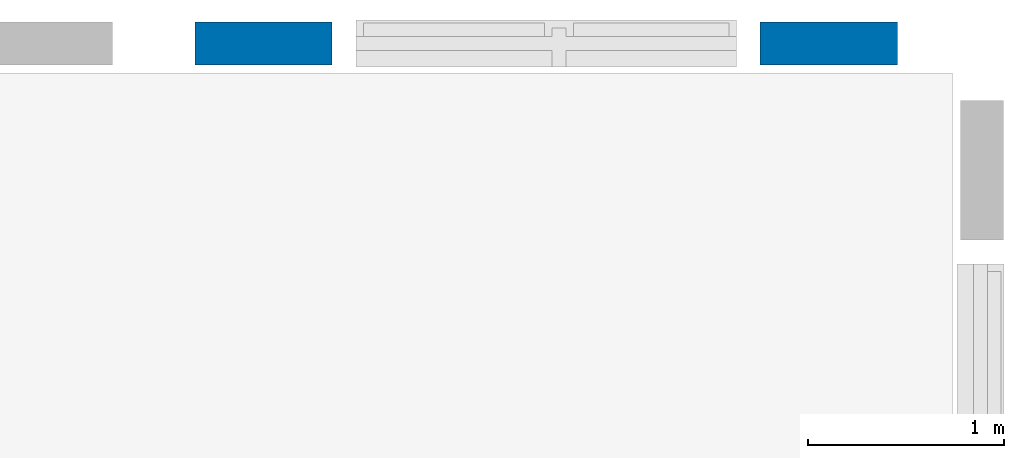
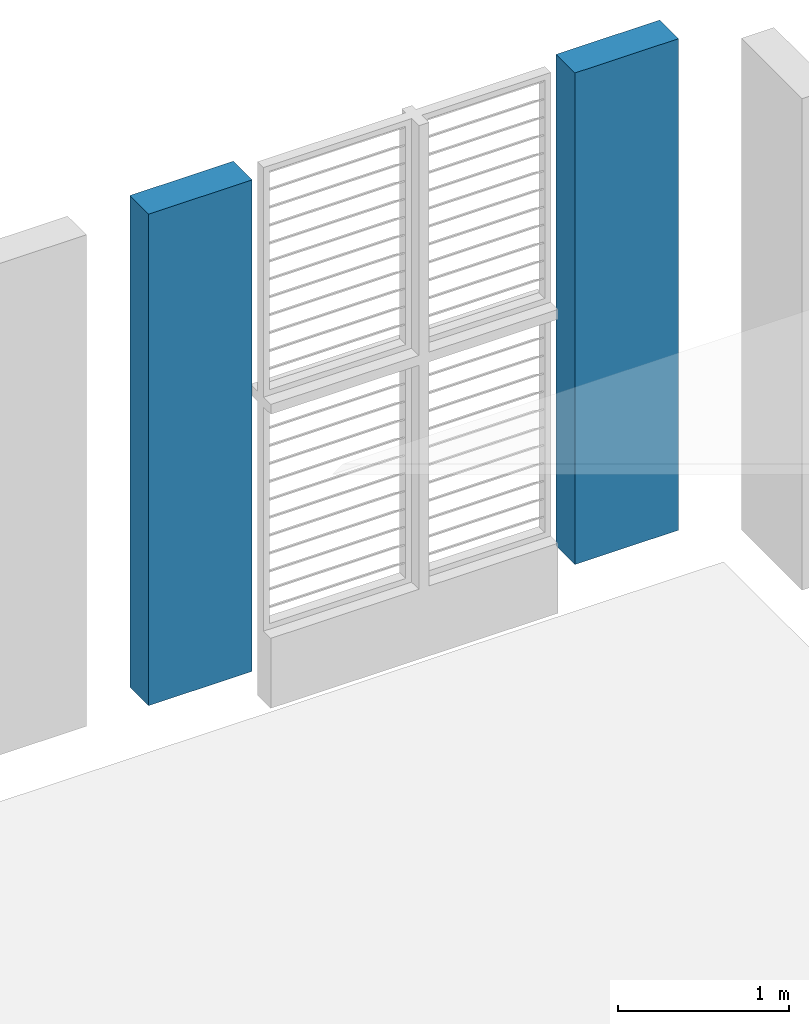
# One storey, part 8 of 8: 2 walls.
"""IFC2X3 building model written with IfcOpenShell, lengths in metres."""

import ifcopenshell
import ifcopenshell.guid

model = None  # the IFC model being written
_history = None  # IfcOwnerHistory: only IFC2X3 demands one
_inside = {}  # id of a spatial element -> (the spatial element, [elements in it])
_under = {}  # id of a project, library or spatial element -> (it, [spatial elements below it])
_declared = {}  # id of a project -> (the project, [libraries it declares])
_typed = {}  # id of a type object -> (the type object, [elements of that type])
_made_of = {}  # id of a material, layer set ... -> (it, [elements and type objects made of it])


def new_model(schema):
    """Start an empty IFC model of exactly this schema.

    Asked for "IFC4X3", IfcOpenShell would pick the latest addendum, in which some entities
    have other attributes; the version numbers below select the first issue.
    IFC2X3 requires an IfcOwnerHistory on every rooted entity: one is made here for all.
    """
    global model, _history
    if schema == "IFC4X3":
        model = ifcopenshell.file(schema_version=(4, 3, 0, 0))
    else:
        model = ifcopenshell.file(schema=schema)
    _inside.clear()
    _under.clear()
    _declared.clear()
    _typed.clear()
    _made_of.clear()
    _history = None
    if model.schema == "IFC2X3":
        org = make("IfcOrganization", Name="unknown")
        user = make(
            "IfcPersonAndOrganization",
            ThePerson=make("IfcPerson", FamilyName="unknown"),
            TheOrganization=org,
        )
        app = make(
            "IfcApplication",
            ApplicationDeveloper=org,
            Version="unknown",
            ApplicationFullName="unknown",
            ApplicationIdentifier="unknown",
        )
        _history = make(
            "IfcOwnerHistory",
            OwningUser=user,
            OwningApplication=app,
            ChangeAction="ADDED",
            CreationDate=0,
        )
    return model


def make(cls, **values):
    """One entity of the class cls with the attributes given. An attribute that is None is left unset."""
    return model.create_entity(
        cls, **{name: value for name, value in values.items() if value is not None}
    )


def entity(cls, *values):
    """Any entity or typed value of the class cls, its attributes in the order of the schema. None: left unset."""
    e = model.create_entity(cls)
    for i, value in enumerate(values):
        if value is not None:
            e[i] = value
    return e


def rooted(cls, **values):
    """An entity with a GlobalId (a new one), such as an element, a storey or a relation."""
    return make(cls, GlobalId=ifcopenshell.guid.new(), OwnerHistory=_history, **values)


def si_unit(unit_type, name, prefix=None):
    """IfcSIUnit, for example si_unit("LENGTHUNIT", "METRE", prefix="MILLI")."""
    return make("IfcSIUnit", UnitType=unit_type, Prefix=prefix, Name=name)


def converted_unit(unit_type, name, factor, base, dimensions=None, offset=None):
    """IfcConversionBasedUnit, such as the inch: factor (a typed value) times the base unit."""
    return make(
        "IfcConversionBasedUnit"
        if offset is None
        else "IfcConversionBasedUnitWithOffset",
        ConversionOffset=offset,
        Dimensions=None
        if dimensions is None
        else entity("IfcDimensionalExponents", *dimensions),
        UnitType=unit_type,
        Name=name,
        ConversionFactor=make(
            "IfcMeasureWithUnit", ValueComponent=factor, UnitComponent=base
        ),
    )


def derived_unit(unit_type, elements):
    """IfcDerivedUnit: a product of units, each with its exponent."""
    return make(
        "IfcDerivedUnit",
        Elements=[
            make("IfcDerivedUnitElement", Unit=unit, Exponent=power)
            for unit, power in elements
        ],
        UnitType=unit_type,
    )


def assignment(units):
    """IfcUnitAssignment: the units of a project."""
    return None if units is None else make("IfcUnitAssignment", Units=units)


def point(xyz):
    """IfcCartesianPoint."""
    return None if xyz is None else make("IfcCartesianPoint", Coordinates=xyz)


def direction(xyz):
    """IfcDirection."""
    return None if xyz is None else make("IfcDirection", DirectionRatios=xyz)


def frame(location, z_axis=None, x_axis=None):
    """IfcAxis2Placement3D, a coordinate frame: its origin and axes. An axis left out is left unset."""
    return make(
        "IfcAxis2Placement3D",
        Location=point(location),
        Axis=direction(z_axis),
        RefDirection=direction(x_axis),
    )


def frame_2d(location, x_axis=None):
    """IfcAxis2Placement2D, a coordinate frame in the plane: its origin and x axis."""
    return make(
        "IfcAxis2Placement2D", Location=point(location), RefDirection=direction(x_axis)
    )


def origin():
    """The frame at (0, 0, 0) with its axes left unset."""
    return frame((0.0, 0.0, 0.0))


def place(relative_to, where):
    """IfcLocalPlacement: puts the frame where relative to a parent placement (None: the world)."""
    return make(
        "IfcLocalPlacement", PlacementRelTo=relative_to, RelativePlacement=where
    )


def context(
    kind, dimensions, precision=None, world=None, true_north=None, identifier=None
):
    """IfcGeometricRepresentationContext, for example the 3D "Model" context."""
    return make(
        "IfcGeometricRepresentationContext",
        ContextIdentifier=identifier,
        ContextType=kind,
        CoordinateSpaceDimension=dimensions,
        Precision=precision,
        WorldCoordinateSystem=world,
        TrueNorth=true_north,
    )


def subcontext(parent, identifier, kind, view, scale=None):
    """IfcGeometricRepresentationSubContext, for example "Body" below "Model"."""
    return make(
        "IfcGeometricRepresentationSubContext",
        ContextIdentifier=identifier,
        ContextType=kind,
        ParentContext=parent,
        TargetScale=scale,
        TargetView=view,
    )


def project(units=None, contexts=None):
    """IfcProject with its units and contexts."""
    return rooted(
        "IfcProject",
        Name="project",
        RepresentationContexts=contexts,
        UnitsInContext=assignment(units),
    )


def spatial(cls, under=None, at=None, **own):
    """A site, building, storey or space (cls), placed at a placement, below another one or the project."""
    s = rooted(cls, ObjectPlacement=at, **own)
    if under is not None:
        _under.setdefault(under.id(), (under, []))[1].append(s)
    return s


def profile(cls, at=None, kind="AREA", **sizes):
    """A parametric profile (cls). Its sizes go by their IFC names, for example OverallWidth=200.0."""
    return make(cls, ProfileType=kind, Position=at, **sizes)


def rectangle(**sizes):
    """IfcRectangleProfileDef."""
    return profile("IfcRectangleProfileDef", **sizes)


def extrude(swept, where, along, depth):
    """IfcExtrudedAreaSolid: the profile swept, set in the frame where, extruded along a direction by depth."""
    return make(
        "IfcExtrudedAreaSolid",
        SweptArea=swept,
        Position=where,
        ExtrudedDirection=direction(along),
        Depth=depth,
    )


def shape(context_of_items, identifier, shape_type, items):
    """IfcShapeRepresentation: the items that make up one representation, for example the "Body"."""
    return make(
        "IfcShapeRepresentation",
        ContextOfItems=context_of_items,
        RepresentationIdentifier=identifier,
        RepresentationType=shape_type,
        Items=items,
    )


def material(Name=None, Category=None):
    """IfcMaterial."""
    return make("IfcMaterial", Name=Name, Category=Category)


def layer(
    of_material, thickness, ventilated=None, Name=None, Category=None, Priority=None
):
    """IfcMaterialLayer: one layer of a wall or slab, of a material (None: an air gap)."""
    return make(
        "IfcMaterialLayer",
        Material=of_material,
        LayerThickness=thickness,
        IsVentilated=ventilated,
        Name=Name,
        Category=Category,
        Priority=Priority,
    )


def layer_set(layers, Name=None):
    """IfcMaterialLayerSet."""
    return make("IfcMaterialLayerSet", MaterialLayers=layers, LayerSetName=Name)


def layer_usage(for_layer_set, set_direction, sense, offset, extent=None):
    """IfcMaterialLayerSetUsage: how a layer set lies in its element."""
    return make(
        "IfcMaterialLayerSetUsage",
        ForLayerSet=for_layer_set,
        LayerSetDirection=set_direction,
        DirectionSense=sense,
        OffsetFromReferenceLine=offset,
        ReferenceExtent=extent,
    )


def made_of(thing, what):
    """Note that an element or type object is made of a material, layer set ...; save() writes the relation."""
    if what is not None:
        _made_of.setdefault(what.id(), (what, []))[1].append(thing)
    return thing


def type_object(cls, material=None, **own):
    """A type object (cls), such as IfcWallType, which elements share."""
    return made_of(rooted(cls, **own), material)


def element(
    cls,
    number,
    at=None,
    inside=None,
    cuts=None,
    type_object=None,
    material=None,
    context=None,
    identifier="Body",
    shape_type=None,
    held_by="IfcProductDefinitionShape",
    body=None,
    shapes=None,
    **own,
):
    """One element of the class cls, such as IfcWall. Its Tag is "e" and its number.

    at: its placement. inside: the storey or other place that contains it. cuts: it is an
    opening in that element (IfcRelVoidsElement). A single representation is given by context,
    identifier, shape_type and body (its items); several are given by shapes. held_by: the class
    of the entity that holds the representations. save() writes the other relations.
    """
    e = rooted(cls, Tag="e%d" % number, ObjectPlacement=at, **own)
    if body is not None:
        shapes = [shape(context, identifier, shape_type, body)]
    if shapes is not None:
        e.Representation = make(held_by, Representations=shapes)
    if inside is not None:
        _inside.setdefault(inside.id(), (inside, []))[1].append(e)
    if cuts is not None:
        rooted(
            "IfcRelVoidsElement", RelatingBuildingElement=cuts, RelatedOpeningElement=e
        )
    if type_object is not None:
        _typed.setdefault(type_object.id(), (type_object, []))[1].append(e)
    return made_of(e, material)


def aggregate(whole, parts):
    """IfcRelAggregates: a whole, such as a stair, and the parts it consists of."""
    return rooted("IfcRelAggregates", RelatingObject=whole, RelatedObjects=parts)


def save(model, path):
    """Write the relations noted so far, then the file.

    IfcRelAggregates (storeys below a building ...), IfcRelContainedInSpatialStructure (elements
    in a storey), IfcRelDefinesByType, IfcRelAssociatesMaterial and IfcRelDeclares: one each for
    every whole, place, type object, material and project.
    """
    for whole, parts in _under.values():
        aggregate(whole, parts)
    for where, things in _inside.values():
        rooted(
            "IfcRelContainedInSpatialStructure",
            RelatedElements=things,
            RelatingStructure=where,
        )
    for kind, things in _typed.values():
        rooted("IfcRelDefinesByType", RelatedObjects=things, RelatingType=kind)
    for what, things in _made_of.values():
        rooted("IfcRelAssociatesMaterial", RelatedObjects=things, RelatingMaterial=what)
    for by, libraries in _declared.values():
        rooted("IfcRelDeclares", RelatingContext=by, RelatedDefinitions=libraries)
    model.write(path)


model = new_model("IFC2X3")

# Units and contexts
model_context = context("Model", 3, precision=1e-05, world=origin(), true_north=direction((6.12303176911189e-17, 1.0)))
body_context = subcontext(model_context, "Body", "Model", "MODEL_VIEW")
ifc_project = project(units=[si_unit("LENGTHUNIT", "METRE"), si_unit("AREAUNIT", "SQUARE_METRE"), si_unit("VOLUMEUNIT", "CUBIC_METRE"), converted_unit("PLANEANGLEUNIT", "DEGREE", entity("IfcRatioMeasure", 0.0174532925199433), si_unit("PLANEANGLEUNIT", "RADIAN"), dimensions=[0, 0, 0, 0, 0, 0, 0]), si_unit("MASSUNIT", "GRAM", prefix="KILO"), derived_unit("MASSDENSITYUNIT", [(si_unit("MASSUNIT", "GRAM", prefix="KILO"), 1), (si_unit("LENGTHUNIT", "METRE"), -3)]), si_unit("TIMEUNIT", "SECOND"), si_unit("FREQUENCYUNIT", "HERTZ"), si_unit("THERMODYNAMICTEMPERATUREUNIT", "DEGREE_CELSIUS"), derived_unit("THERMALTRANSMITTANCEUNIT", [(si_unit("MASSUNIT", "GRAM", prefix="KILO"), 1), (si_unit("THERMODYNAMICTEMPERATUREUNIT", "KELVIN"), -1), (si_unit("TIMEUNIT", "SECOND"), -3)]), derived_unit("VOLUMETRICFLOWRATEUNIT", [(si_unit("LENGTHUNIT", "METRE"), 3), (si_unit("TIMEUNIT", "SECOND"), -1)]), si_unit("ELECTRICCURRENTUNIT", "AMPERE"), si_unit("ELECTRICVOLTAGEUNIT", "VOLT"), si_unit("POWERUNIT", "WATT"), si_unit("FORCEUNIT", "NEWTON", prefix="KILO"), si_unit("ILLUMINANCEUNIT", "LUX"), si_unit("LUMINOUSFLUXUNIT", "LUMEN"), si_unit("LUMINOUSINTENSITYUNIT", "CANDELA"), derived_unit("USERDEFINED", [(si_unit("MASSUNIT", "GRAM", prefix="KILO"), -1), (si_unit("LENGTHUNIT", "METRE"), -2), (si_unit("TIMEUNIT", "SECOND"), 3), (si_unit("LUMINOUSFLUXUNIT", "LUMEN"), 1)]), derived_unit("LINEARVELOCITYUNIT", [(si_unit("LENGTHUNIT", "METRE"), 1), (si_unit("TIMEUNIT", "SECOND"), -1)]), si_unit("PRESSUREUNIT", "PASCAL"), derived_unit("USERDEFINED", [(si_unit("LENGTHUNIT", "METRE"), -2), (si_unit("MASSUNIT", "GRAM", prefix="KILO"), 1), (si_unit("TIMEUNIT", "SECOND"), -2)])], contexts=[model_context])

# Site, building, storey
site_placement = place(None, origin())
site = spatial("IfcSite", under=ifc_project, at=site_placement, Name="Surface", CompositionType="ELEMENT")
building_placement = place(site_placement, origin())
building = spatial("IfcBuilding", under=site, at=building_placement, Name="ExPREF", CompositionType="ELEMENT")
storey_placement = place(building_placement, origin())
storey = spatial("IfcBuildingStorey", under=building, at=storey_placement, Name="RDC", CompositionType="ELEMENT", Elevation=-6.89719131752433e-12)

# Walls
ifc_material = material(Name="AA-BTC")
ifc_layer = layer(ifc_material, 0.22)
ifc_layer_set = layer_set([ifc_layer], Name="Mur de base:A-prémur BTC")
ifc_layer_usage_1 = layer_usage(ifc_layer_set, "AXIS2", "NEGATIVE", 0.11)
wall_type = type_object("IfcWallType", Name="Mur de base:A-prémur BTC", PredefinedType="STANDARD", material=ifc_layer_set)
wall_1_placement = place(storey_placement, frame((69.2797436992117, -185.056487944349, 0.300000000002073), z_axis=(0.0, 0.0, 1.0), x_axis=(-1.0, 0.0, 0.0)))
element("IfcWallStandardCase", 1, at=wall_1_placement, inside=storey, type_object=wall_type, material=ifc_layer_usage_1, Name="Mur de base:A-prémur BTC", ObjectType="Mur de base:A-prémur BTC", context=body_context, shape_type="SweptSolid", body=[
    extrude(rectangle(XDim=0.699999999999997, YDim=0.220000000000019, at=frame_2d((0.349999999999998, -2.13024042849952e-15), x_axis=(-1.0, 0.0))), origin(), (0.0, 0.0, 1.0), 3.51000000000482),
])
ifc_layer_usage_2 = layer_usage(ifc_layer_set, "AXIS2", "POSITIVE", -0.11)
wall_2_placement = place(storey_placement, frame((65.6997436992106, -185.056487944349, 0.300000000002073)))
element("IfcWallStandardCase", 2, at=wall_2_placement, inside=storey, type_object=wall_type, material=ifc_layer_usage_2, Name="Mur de base:A-prémur BTC", ObjectType="Mur de base:A-prémur BTC", context=body_context, shape_type="SweptSolid", body=[
    extrude(rectangle(XDim=0.699999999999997, YDim=0.220000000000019, at=frame_2d((0.349999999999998, -2.13024042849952e-15), x_axis=(-1.0, 0.0))), origin(), (0.0, 0.0, 1.0), 3.51000000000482),
])

save(model, "model.ifc")
